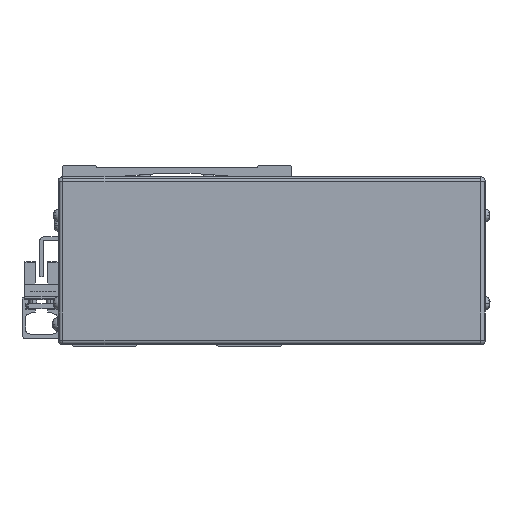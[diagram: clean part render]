
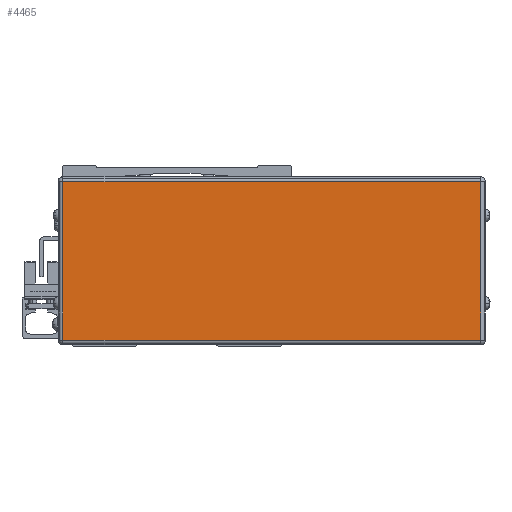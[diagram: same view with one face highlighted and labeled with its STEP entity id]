
A CAD part, front view. The second image highlights one B-rep face of the part: STEP entity #4465.
In plain terms, the highlighted planar face has unit normal (0, -1, 0).
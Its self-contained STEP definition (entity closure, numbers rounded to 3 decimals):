
#4465=ADVANCED_FACE('',(#9952),#9953,.T.);
#9952=FACE_OUTER_BOUND('',#17617,.T.);
#9953=PLANE('',#17618);
#17617=EDGE_LOOP('',(#31028,#31029,#31030,#31031));
#17618=AXIS2_PLACEMENT_3D('',#31032,#31033,#31034);
#31028=ORIENTED_EDGE('',*,*,#46309,.F.);
#31029=ORIENTED_EDGE('',*,*,#46310,.F.);
#31030=ORIENTED_EDGE('',*,*,#46311,.F.);
#31031=ORIENTED_EDGE('',*,*,#46312,.F.);
#31032=CARTESIAN_POINT('',(39.,86.222,-42.5));
#31033=DIRECTION('',(0.0,-1.0,0.0));
#31034=DIRECTION('',(1.0,0.0,0.0));
#46309=EDGE_CURVE('',#57184,#57185,#57186,.T.);
#46310=EDGE_CURVE('',#54967,#57184,#57187,.T.);
#46311=EDGE_CURVE('',#57188,#54967,#57189,.T.);
#46312=EDGE_CURVE('',#57185,#57188,#57190,.T.);
#54967=VERTEX_POINT('',#69092);
#57184=VERTEX_POINT('',#72486);
#57185=VERTEX_POINT('',#72487);
#57186=LINE('',#72488,#72489);
#57187=LINE('',#72490,#72491);
#57188=VERTEX_POINT('',#72492);
#57189=LINE('',#72493,#72494);
#57190=LINE('',#72495,#72496);
#69092=CARTESIAN_POINT('',(124.7,86.222,24.5));
#72486=CARTESIAN_POINT('',(124.7,86.222,-40.5));
#72487=CARTESIAN_POINT('',(-46.7,86.222,-40.5));
#72488=CARTESIAN_POINT('',(39.,86.222,-40.5));
#72489=VECTOR('',#83313,10.0);
#72490=CARTESIAN_POINT('',(124.7,86.222,-42.5));
#72491=VECTOR('',#83314,10.0);
#72492=CARTESIAN_POINT('',(-46.7,86.222,24.5));
#72493=CARTESIAN_POINT('',(39.,86.222,24.5));
#72494=VECTOR('',#83315,10.0);
#72495=CARTESIAN_POINT('',(-46.7,86.222,-42.5));
#72496=VECTOR('',#83316,10.0);
#83313=DIRECTION('',(-1.0,0.0,0.0));
#83314=DIRECTION('',(0.0,0.0,-1.0));
#83315=DIRECTION('',(1.0,0.0,0.0));
#83316=DIRECTION('',(0.0,0.0,1.0));
